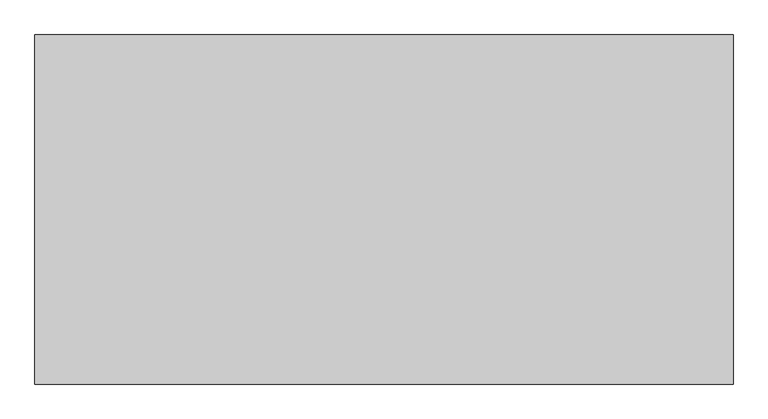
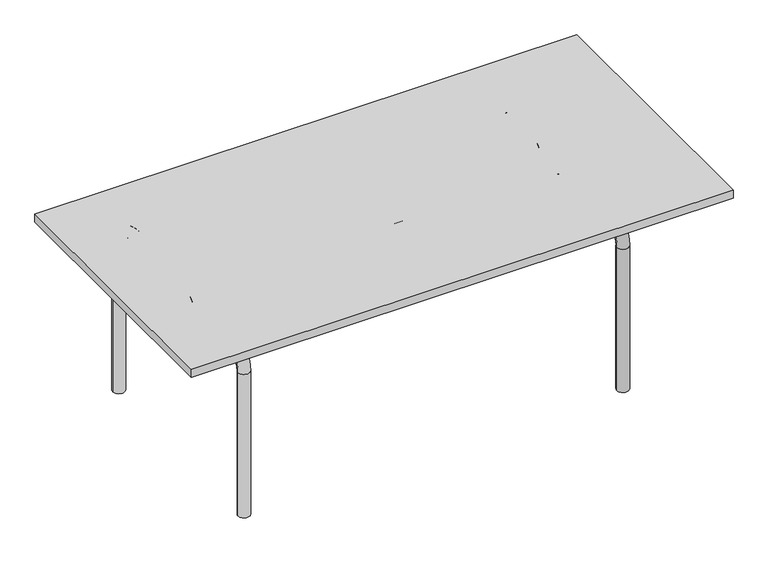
"""IFC4 building model written with IfcOpenShell, lengths in millimetres: furniture geometry, Knoll_Studio_Lovegrove_Table_Desks_Rectangular : Knoll_Studio_Lovegrove_Table_Desks_Rectangular."""

from ifc_helpers import new_model, si_unit, point, frame, origin, place, context, project, spatial, polyline, circle_curve, ellipse_curve, trimmed, outline, extrude, source, transform, mapped, element, save
from ifc_brep_helpers import plane_surface, cylinder_surface, revolved_surface, advanced_brep


def furniture_fff9fc54(model_context):
    return source(origin(), model_context, "Body", "SolidModel", [
        extrude(outline(polyline([(1048.9164642, -500.1260135), (-951.3335358, -500.1260135), (-951.3335358, 500.1260136), (1048.9164642, 500.1260136), (1048.9164642, -500.1260135)])), frame((0.0, 0.0, 685.8), z_axis=(0.0, 0.0, 1.0), x_axis=(1.0, 0.0, 0.0)), (0.0, 0.0, 1.0), 30.48),
        advanced_brep(
        [(0.0, -0.3809992, 663.575012), (0.0, -44.0689992, 663.575012), (597.9159869, -44.0689992, 663.575012), (597.9159869, -0.3809992, 663.575012), (-597.9159869, -0.3809992, 663.575012), (-597.9159869, -44.0689992, 663.575012), (677.6719869, -123.8249992, 663.575012), (721.3599869, -123.8249992, 663.575012), (-721.3599869, -123.8249992, 663.575012), (-677.6719869, -123.8249992, 663.575012), (-721.3599869, -207.6534621, 663.575012), (-677.6719869, -207.6534621, 663.575012), (677.6719869, -207.6534621, 663.575012), (721.3599869, -207.6534621, 663.575012), (-721.3599869, -298.45, 663.575012), (-677.6719869, -298.45, 663.575012), (677.6719869, -298.45, 663.575012), (721.3599869, -298.45, 663.575012), (-677.6719869, -400.05, 561.975012), (-721.3599869, -400.05, 561.975012), (-721.3599869, -400.05, 2.613678), (-677.6719869, -400.05, 2.613678), (677.6719869, -400.05, 561.975012), (721.3599869, -400.05, 561.975012), (677.6719869, -400.05, 2.613678), (721.3599869, -400.05, 2.613678)],
        [
            (0, 1, circle_curve(frame((0.0, -22.2249992, 663.575012), z_axis=(1.0, 0.0, 0.0), x_axis=(0.0, 1.0, 0.0)), 21.844)),
            (1, 2),
            (2, 3, circle_curve(frame((597.9159869, -22.2249992, 663.575012), z_axis=(-1.0, 0.0, 0.0), x_axis=(0.0, 1.0, 0.0)), 21.844)),
            (3, 0),
            (1, 0, circle_curve(frame((0.0, -22.2249992, 663.575012), z_axis=(1.0, 0.0, 0.0), x_axis=(0.0, 1.0, 0.0)), 21.844)),
            (3, 2, circle_curve(frame((597.9159869, -22.2249992, 663.575012), z_axis=(-1.0, 0.0, 0.0), x_axis=(0.0, 1.0, 0.0)), 21.844)),
            (0, 4),
            (4, 5, circle_curve(frame((-597.9159869, -22.2249992, 663.575012), z_axis=(1.0, 0.0, 0.0), x_axis=(0.0, 1.0, 0.0)), 21.844)),
            (5, 1),
            (5, 4, circle_curve(frame((-597.9159869, -22.2249992, 663.575012), z_axis=(1.0, 0.0, 0.0), x_axis=(0.0, 1.0, 0.0)), 21.844)),
            (2, 6, circle_curve(frame((597.9159869, -123.8249992, 663.575012), z_axis=(0.0, 0.0, -1.0), x_axis=(0.0, 1.0, 0.0)), 79.756)),
            (6, 7, circle_curve(frame((699.5159869, -123.8249992, 663.575012), z_axis=(0.0, 1.0, 0.0), x_axis=(1.0, 0.0, 0.0)), 21.844)),
            (7, 3, circle_curve(frame((597.9159869, -123.8249992, 663.575012), z_axis=(0.0, 0.0, 1.0), x_axis=(0.0, 1.0, 0.0)), 123.444)),
            (7, 6, circle_curve(frame((699.5159869, -123.8249992, 663.575012), z_axis=(0.0, 1.0, 0.0), x_axis=(1.0, 0.0, 0.0)), 21.844)),
            (4, 8, circle_curve(frame((-597.9159869, -123.8249992, 663.575012), z_axis=(0.0, 0.0, 1.0), x_axis=(-1.0, 0.0, 0.0)), 123.444)),
            (8, 9, circle_curve(frame((-699.5159869, -123.8249992, 663.575012), z_axis=(0.0, 1.0, 0.0), x_axis=(-1.0, 0.0, 0.0)), 21.844)),
            (9, 5, circle_curve(frame((-597.9159869, -123.8249992, 663.575012), z_axis=(0.0, 0.0, -1.0), x_axis=(-1.0, 0.0, 0.0)), 79.756)),
            (9, 8, circle_curve(frame((-699.5159869, -123.8249992, 663.575012), z_axis=(0.0, 1.0, 0.0), x_axis=(-1.0, 0.0, 0.0)), 21.844)),
            (8, 10),
            (10, 11, circle_curve(frame((-699.5159869, -207.6534621, 663.575012), z_axis=(0.0, 1.0, 0.0), x_axis=(-1.0, 0.0, 0.0)), 21.844)),
            (11, 9),
            (11, 10, circle_curve(frame((-699.5159869, -207.6534621, 663.575012), z_axis=(0.0, 1.0, 0.0), x_axis=(-1.0, 0.0, 0.0)), 21.844)),
            (6, 12),
            (12, 13, circle_curve(frame((699.5159869, -207.6534621, 663.575012), z_axis=(0.0, 1.0, 0.0), x_axis=(1.0, 0.0, 0.0)), 21.844)),
            (13, 7),
            (13, 12, circle_curve(frame((699.5159869, -207.6534621, 663.575012), z_axis=(0.0, 1.0, 0.0), x_axis=(1.0, 0.0, 0.0)), 21.844)),
            (10, 14),
            (14, 15, circle_curve(frame((-699.5159869, -298.45, 663.575012), z_axis=(0.0, 1.0, 0.0), x_axis=(-1.0, 0.0, 0.0)), 21.844)),
            (15, 11),
            (15, 14, circle_curve(frame((-699.5159869, -298.45, 663.575012), z_axis=(0.0, 1.0, 0.0), x_axis=(-1.0, 0.0, 0.0)), 21.844)),
            (12, 16),
            (16, 17, circle_curve(frame((699.5159869, -298.45, 663.575012), z_axis=(0.0, 1.0, 0.0), x_axis=(1.0, 0.0, 0.0)), 21.844)),
            (17, 13),
            (17, 16, circle_curve(frame((699.5159869, -298.45, 663.575012), z_axis=(0.0, 1.0, 0.0), x_axis=(1.0, 0.0, 0.0)), 21.844)),
            (18, 19, circle_curve(frame((-699.5159869, -400.05, 561.975012), z_axis=(0.0, 0.0, -1.0), x_axis=(-1.0, 0.0, 0.0)), 21.844)),
            (19, 20),
            (20, 21, circle_curve(frame((-699.5159869, -400.05, 2.613678), z_axis=(0.0, 0.0, 1.0), x_axis=(-1.0, 0.0, 0.0)), 21.844)),
            (21, 18),
            (19, 18, circle_curve(frame((-699.5159869, -400.05, 561.975012), z_axis=(0.0, 0.0, -1.0), x_axis=(-1.0, 0.0, 0.0)), 21.844)),
            (21, 20, circle_curve(frame((-699.5159869, -400.05, 2.613678), z_axis=(0.0, 0.0, 1.0), x_axis=(-1.0, 0.0, 0.0)), 21.844)),
            (14, 19, circle_curve(frame((-721.3599869, -298.45, 561.975012), z_axis=(1.0, 0.0, 0.0), x_axis=(0.0, -1.0, 0.0)), 101.6)),
            (18, 15, circle_curve(frame((-677.6719869, -298.45, 561.975012), z_axis=(-1.0, 0.0, 0.0), x_axis=(0.0, -1.0, 0.0)), 101.6)),
            (16, 22, circle_curve(frame((677.6719869, -298.45, 561.975012), z_axis=(1.0, 0.0, 0.0), x_axis=(0.0, 0.0, 1.0)), 101.6)),
            (22, 23, circle_curve(frame((699.5159869, -400.05, 561.975012), z_axis=(0.0, 0.0, 1.0), x_axis=(1.0, 0.0, 0.0)), 21.844)),
            (23, 17, circle_curve(frame((721.3599869, -298.45, 561.975012), z_axis=(-1.0, 0.0, 0.0), x_axis=(0.0, 0.0, 1.0)), 101.6)),
            (23, 22, circle_curve(frame((699.5159869, -400.05, 561.975012), z_axis=(0.0, 0.0, 1.0), x_axis=(1.0, 0.0, 0.0)), 21.844)),
            (22, 24),
            (24, 25, circle_curve(frame((699.5159869, -400.05, 2.613678), z_axis=(0.0, 0.0, 1.0), x_axis=(1.0, 0.0, 0.0)), 21.844)),
            (25, 23),
            (25, 24, circle_curve(frame((699.5159869, -400.05, 2.613678), z_axis=(0.0, 0.0, 1.0), x_axis=(1.0, 0.0, 0.0)), 21.844)),
        ],
        [
            cylinder_surface(frame((0.0, -22.2249992, 663.575012), z_axis=(-1.0, 0.0, 0.0), x_axis=(0.0, 1.0, 0.0)), 21.844),
            cylinder_surface(frame((-597.9159869, -22.2249992, 663.575012), z_axis=(-1.0, 0.0, 0.0), x_axis=(0.0, 1.0, 0.0)), 21.844),
            revolved_surface(trimmed(ellipse_curve(frame((597.9159869, -22.2249992, 663.575012), z_axis=(-1.0, 0.0, 0.0), x_axis=(0.0, 1.0, 0.0)), 21.844, 21.844), [point((597.9159869, -44.0689992, 663.575012))], [point((597.9159869, -0.3809992, 663.575012))], True, "CARTESIAN"), (597.9159869, -123.8249992, 663.575012), (0.0, 0.0, -1.0)),
            revolved_surface(trimmed(ellipse_curve(frame((597.9159869, -22.2249992, 663.575012), z_axis=(-1.0, 0.0, 0.0), x_axis=(0.0, 1.0, 0.0)), 21.844, 21.844), [point((597.9159869, -0.3809992, 663.575012))], [point((597.9159869, -44.0689992, 663.575012))], True, "CARTESIAN"), (597.9159869, -123.8249992, 663.575012), (0.0, 0.0, -1.0)),
            revolved_surface(trimmed(ellipse_curve(frame((-699.5159869, -123.8249992, 663.575012), z_axis=(0.0, -1.0, 0.0), x_axis=(-1.0, 0.0, 0.0)), 21.844, 21.844), [point((-677.6719869, -123.8249992, 663.575012))], [point((-721.3599869, -123.8249992, 663.575012))], True, "CARTESIAN"), (-597.9159869, -123.8249992, 663.575012), (0.0, 0.0, -1.0)),
            revolved_surface(trimmed(ellipse_curve(frame((-699.5159869, -123.8249992, 663.575012), z_axis=(0.0, -1.0, 0.0), x_axis=(-1.0, 0.0, 0.0)), 21.844, 21.844), [point((-721.3599869, -123.8249992, 663.575012))], [point((-677.6719869, -123.8249992, 663.575012))], True, "CARTESIAN"), (-597.9159869, -123.8249992, 663.575012), (0.0, 0.0, -1.0)),
            cylinder_surface(frame((-699.5159869, -207.6534621, 663.575012), z_axis=(0.0, -1.0, 0.0), x_axis=(-1.0, 0.0, 0.0)), 21.844),
            cylinder_surface(frame((699.5159869, -123.8249992, 663.575012), z_axis=(0.0, 1.0, 0.0), x_axis=(1.0, 0.0, 0.0)), 21.844),
            cylinder_surface(frame((-699.5159869, -298.45, 663.575012), z_axis=(0.0, -1.0, 0.0), x_axis=(-1.0, 0.0, 0.0)), 21.844),
            cylinder_surface(frame((699.5159869, -207.6534621, 663.575012), z_axis=(0.0, 1.0, 0.0), x_axis=(1.0, 0.0, 0.0)), 21.844),
            cylinder_surface(frame((-699.5159869, -400.05, 1e-07), z_axis=(0.0, 0.0, -1.0), x_axis=(-1.0, 0.0, 0.0)), 21.844),
            revolved_surface(trimmed(ellipse_curve(frame((-699.5159869, -400.05, 561.975012), z_axis=(0.0, 0.0, -1.0), x_axis=(-1.0, 0.0, 0.0)), 21.844, 21.844), [point((-677.6719869, -400.05, 561.975012))], [point((-721.3599869, -400.05, 561.975012))], True, "CARTESIAN"), (-699.5159869, -298.45, 561.975012), (-1.0, 0.0, 0.0)),
            revolved_surface(trimmed(ellipse_curve(frame((-699.5159869, -400.05, 561.975012), z_axis=(0.0, 0.0, -1.0), x_axis=(-1.0, 0.0, 0.0)), 21.844, 21.844), [point((-721.3599869, -400.05, 561.975012))], [point((-677.6719869, -400.05, 561.975012))], True, "CARTESIAN"), (-699.5159869, -298.45, 561.975012), (-1.0, 0.0, 0.0)),
            revolved_surface(trimmed(ellipse_curve(frame((699.5159869, -298.45, 663.575012), z_axis=(0.0, 1.0, 0.0), x_axis=(1.0, 0.0, 0.0)), 21.844, 21.844), [point((677.6719869, -298.45, 663.575012))], [point((721.3599869, -298.45, 663.575012))], True, "CARTESIAN"), (699.5159869, -298.45, 561.975012), (1.0, 0.0, 0.0)),
            revolved_surface(trimmed(ellipse_curve(frame((699.5159869, -298.45, 663.575012), z_axis=(0.0, 1.0, 0.0), x_axis=(1.0, 0.0, 0.0)), 21.844, 21.844), [point((721.3599869, -298.45, 663.575012))], [point((677.6719869, -298.45, 663.575012))], True, "CARTESIAN"), (699.5159869, -298.45, 561.975012), (1.0, 0.0, 0.0)),
            cylinder_surface(frame((699.5159869, -400.05, 561.975012), z_axis=(0.0, 0.0, 1.0), x_axis=(1.0, 0.0, 0.0)), 21.844),
            plane_surface(frame((768.710779, -274.665633, 2.613678), z_axis=(0.0, 0.0, -1.0), x_axis=(-1.0, 0.0, 0.0))),
        ],
        [
            (0, [[1, 2, 3, 4]]),
            (0, [[-2, 5, -4, 6]]),
            (1, [[-1, 7, 8, 9]]),
            (1, [[-5, -9, 10, -7]]),
            (2, [[-3, 11, 12, 13]]),
            (3, [[-6, -13, 14, -11]]),
            (4, [[-8, 15, 16, 17]]),
            (5, [[-10, -17, 18, -15]]),
            (6, [[-16, 19, 20, 21]]),
            (6, [[-18, -21, 22, -19]]),
            (7, [[-12, 23, 24, 25]]),
            (7, [[-14, -25, 26, -23]]),
            (8, [[-20, 27, 28, 29]]),
            (8, [[-22, -29, 30, -27]]),
            (9, [[-24, 31, 32, 33]]),
            (9, [[-26, -33, 34, -31]]),
            (10, [[35, 36, 37, 38]]),
            (10, [[39, -38, 40, -36]]),
            (11, [[-28, 41, -35, 42]]),
            (12, [[-30, -42, -39, -41]]),
            (13, [[-32, 43, 44, 45]]),
            (14, [[-34, -45, 46, -43]]),
            (15, [[-44, 47, 48, 49]]),
            (15, [[-46, -49, 50, -47]]),
            (16, [[-37, -40]]),
            (16, [[-48, -50]]),
        ],
    ),
        advanced_brep(
        [(0.0, 44.0689992, 663.575012), (0.0, 0.3809992, 663.575012), (597.9159869, 0.3809992, 663.575012), (597.9159869, 44.0689992, 663.575012), (-597.9159869, 44.0689992, 663.575012), (-597.9159869, 0.3809992, 663.575012), (721.3599869, 123.8249992, 663.575012), (677.6719869, 123.8249992, 663.575012), (-677.6719869, 123.8249992, 663.575012), (-721.3599869, 123.8249992, 663.575012), (-677.6719869, 207.6534621, 663.575012), (-721.3599869, 207.6534621, 663.575012), (721.3599869, 207.6534621, 663.575012), (677.6719869, 207.6534621, 663.575012), (-677.6719869, 298.45, 663.575012), (-721.3599869, 298.45, 663.575012), (721.3599869, 298.45, 663.575012), (677.6719869, 298.45, 663.575012), (-721.3599869, 400.05, 561.975012), (-677.6719869, 400.05, 561.975012), (-677.6719869, 400.05, 2.613678), (-721.3599869, 400.05, 2.613678), (721.3599869, 400.05, 561.975012), (677.6719869, 400.05, 561.975012), (721.3599869, 400.05, 2.613678), (677.6719869, 400.05, 2.613678)],
        [
            (0, 1, circle_curve(frame((0.0, 22.2249992, 663.575012), z_axis=(1.0, 0.0, 0.0), x_axis=(0.0, -1.0, 0.0)), 21.844)),
            (1, 2),
            (2, 3, circle_curve(frame((597.9159869, 22.2249992, 663.575012), z_axis=(-1.0, 0.0, 0.0), x_axis=(0.0, -1.0, 0.0)), 21.844)),
            (3, 0),
            (1, 0, circle_curve(frame((0.0, 22.2249992, 663.575012), z_axis=(1.0, 0.0, 0.0), x_axis=(0.0, -1.0, 0.0)), 21.844)),
            (3, 2, circle_curve(frame((597.9159869, 22.2249992, 663.575012), z_axis=(-1.0, 0.0, 0.0), x_axis=(0.0, -1.0, 0.0)), 21.844)),
            (0, 4),
            (4, 5, circle_curve(frame((-597.9159869, 22.2249992, 663.575012), z_axis=(1.0, 0.0, 0.0), x_axis=(0.0, -1.0, 0.0)), 21.844)),
            (5, 1),
            (5, 4, circle_curve(frame((-597.9159869, 22.2249992, 663.575012), z_axis=(1.0, 0.0, 0.0), x_axis=(0.0, -1.0, 0.0)), 21.844)),
            (2, 6, circle_curve(frame((597.9159869, 123.8249992, 663.575012), z_axis=(0.0, 0.0, 1.0), x_axis=(0.0, -1.0, 0.0)), 123.444)),
            (6, 7, circle_curve(frame((699.5159869, 123.8249992, 663.575012), z_axis=(0.0, -1.0, 0.0), x_axis=(1.0, 0.0, 0.0)), 21.844)),
            (7, 3, circle_curve(frame((597.9159869, 123.8249992, 663.575012), z_axis=(0.0, 0.0, -1.0), x_axis=(0.0, -1.0, 0.0)), 79.756)),
            (7, 6, circle_curve(frame((699.5159869, 123.8249992, 663.575012), z_axis=(0.0, -1.0, 0.0), x_axis=(1.0, 0.0, 0.0)), 21.844)),
            (4, 8, circle_curve(frame((-597.9159869, 123.8249992, 663.575012), z_axis=(0.0, 0.0, -1.0), x_axis=(-1.0, 0.0, 0.0)), 79.756)),
            (8, 9, circle_curve(frame((-699.5159869, 123.8249992, 663.575012), z_axis=(0.0, -1.0, 0.0), x_axis=(-1.0, 0.0, 0.0)), 21.844)),
            (9, 5, circle_curve(frame((-597.9159869, 123.8249992, 663.575012), z_axis=(0.0, 0.0, 1.0), x_axis=(-1.0, 0.0, 0.0)), 123.444)),
            (9, 8, circle_curve(frame((-699.5159869, 123.8249992, 663.575012), z_axis=(0.0, -1.0, 0.0), x_axis=(-1.0, 0.0, 0.0)), 21.844)),
            (8, 10),
            (10, 11, circle_curve(frame((-699.5159869, 207.6534621, 663.575012), z_axis=(0.0, -1.0, 0.0), x_axis=(-1.0, 0.0, 0.0)), 21.844)),
            (11, 9),
            (11, 10, circle_curve(frame((-699.5159869, 207.6534621, 663.575012), z_axis=(0.0, -1.0, 0.0), x_axis=(-1.0, 0.0, 0.0)), 21.844)),
            (6, 12),
            (12, 13, circle_curve(frame((699.5159869, 207.6534621, 663.575012), z_axis=(0.0, -1.0, 0.0), x_axis=(1.0, 0.0, 0.0)), 21.844)),
            (13, 7),
            (13, 12, circle_curve(frame((699.5159869, 207.6534621, 663.575012), z_axis=(0.0, -1.0, 0.0), x_axis=(1.0, 0.0, 0.0)), 21.844)),
            (10, 14),
            (14, 15, circle_curve(frame((-699.5159869, 298.45, 663.575012), z_axis=(0.0, -1.0, 0.0), x_axis=(-1.0, 0.0, 0.0)), 21.844)),
            (15, 11),
            (15, 14, circle_curve(frame((-699.5159869, 298.45, 663.575012), z_axis=(0.0, -1.0, 0.0), x_axis=(-1.0, 0.0, 0.0)), 21.844)),
            (12, 16),
            (16, 17, circle_curve(frame((699.5159869, 298.45, 663.575012), z_axis=(0.0, -1.0, 0.0), x_axis=(1.0, 0.0, 0.0)), 21.844)),
            (17, 13),
            (17, 16, circle_curve(frame((699.5159869, 298.45, 663.575012), z_axis=(0.0, -1.0, 0.0), x_axis=(1.0, 0.0, 0.0)), 21.844)),
            (18, 19, circle_curve(frame((-699.5159869, 400.05, 561.975012), z_axis=(0.0, 0.0, -1.0), x_axis=(-1.0, 0.0, 0.0)), 21.844)),
            (19, 20),
            (20, 21, circle_curve(frame((-699.5159869, 400.05, 2.613678), z_axis=(0.0, 0.0, 1.0), x_axis=(-1.0, 0.0, 0.0)), 21.844)),
            (21, 18),
            (19, 18, circle_curve(frame((-699.5159869, 400.05, 561.975012), z_axis=(0.0, 0.0, -1.0), x_axis=(-1.0, 0.0, 0.0)), 21.844)),
            (21, 20, circle_curve(frame((-699.5159869, 400.05, 2.613678), z_axis=(0.0, 0.0, 1.0), x_axis=(-1.0, 0.0, 0.0)), 21.844)),
            (14, 19, circle_curve(frame((-677.6719869, 298.45, 561.975012), z_axis=(-1.0, 0.0, 0.0), x_axis=(0.0, 1.0, 0.0)), 101.6)),
            (18, 15, circle_curve(frame((-721.3599869, 298.45, 561.975012), z_axis=(1.0, 0.0, 0.0), x_axis=(0.0, 1.0, 0.0)), 101.6)),
            (16, 22, circle_curve(frame((721.3599869, 298.45, 561.975012), z_axis=(-1.0, 0.0, 0.0), x_axis=(0.0, 0.0, 1.0)), 101.6)),
            (22, 23, circle_curve(frame((699.5159869, 400.05, 561.975012), z_axis=(0.0, 0.0, 1.0), x_axis=(1.0, 0.0, 0.0)), 21.844)),
            (23, 17, circle_curve(frame((677.6719869, 298.45, 561.975012), z_axis=(1.0, 0.0, 0.0), x_axis=(0.0, 0.0, 1.0)), 101.6)),
            (23, 22, circle_curve(frame((699.5159869, 400.05, 561.975012), z_axis=(0.0, 0.0, 1.0), x_axis=(1.0, 0.0, 0.0)), 21.844)),
            (22, 24),
            (24, 25, circle_curve(frame((699.5159869, 400.05, 2.613678), z_axis=(0.0, 0.0, 1.0), x_axis=(1.0, 0.0, 0.0)), 21.844)),
            (25, 23),
            (25, 24, circle_curve(frame((699.5159869, 400.05, 2.613678), z_axis=(0.0, 0.0, 1.0), x_axis=(1.0, 0.0, 0.0)), 21.844)),
        ],
        [
            cylinder_surface(frame((0.0, 22.2249992, 663.575012), z_axis=(-1.0, 0.0, 0.0), x_axis=(0.0, -1.0, 0.0)), 21.844),
            cylinder_surface(frame((-597.9159869, 22.2249992, 663.575012), z_axis=(-1.0, 0.0, 0.0), x_axis=(0.0, -1.0, 0.0)), 21.844),
            revolved_surface(trimmed(ellipse_curve(frame((597.9159869, 22.2249992, 663.575012), z_axis=(-1.0, 0.0, 0.0), x_axis=(0.0, -1.0, 0.0)), 21.844, 21.844), [point((597.9159869, 0.3809992, 663.575012))], [point((597.9159869, 44.0689992, 663.575012))], True, "CARTESIAN"), (597.9159869, 123.8249992, 663.575012), (0.0, 0.0, 1.0)),
            revolved_surface(trimmed(ellipse_curve(frame((597.9159869, 22.2249992, 663.575012), z_axis=(-1.0, 0.0, 0.0), x_axis=(0.0, -1.0, 0.0)), 21.844, 21.844), [point((597.9159869, 44.0689992, 663.575012))], [point((597.9159869, 0.3809992, 663.575012))], True, "CARTESIAN"), (597.9159869, 123.8249992, 663.575012), (0.0, 0.0, 1.0)),
            revolved_surface(trimmed(ellipse_curve(frame((-699.5159869, 123.8249992, 663.575012), z_axis=(0.0, 1.0, 0.0), x_axis=(-1.0, 0.0, 0.0)), 21.844, 21.844), [point((-721.3599869, 123.8249992, 663.575012))], [point((-677.6719869, 123.8249992, 663.575012))], True, "CARTESIAN"), (-597.9159869, 123.8249992, 663.575012), (0.0, 0.0, 1.0)),
            revolved_surface(trimmed(ellipse_curve(frame((-699.5159869, 123.8249992, 663.575012), z_axis=(0.0, 1.0, 0.0), x_axis=(-1.0, 0.0, 0.0)), 21.844, 21.844), [point((-677.6719869, 123.8249992, 663.575012))], [point((-721.3599869, 123.8249992, 663.575012))], True, "CARTESIAN"), (-597.9159869, 123.8249992, 663.575012), (0.0, 0.0, 1.0)),
            cylinder_surface(frame((-699.5159869, 207.6534621, 663.575012), z_axis=(0.0, 1.0, 0.0), x_axis=(-1.0, 0.0, 0.0)), 21.844),
            cylinder_surface(frame((699.5159869, 123.8249992, 663.575012), z_axis=(0.0, -1.0, 0.0), x_axis=(1.0, 0.0, 0.0)), 21.844),
            cylinder_surface(frame((-699.5159869, 298.45, 663.575012), z_axis=(0.0, 1.0, 0.0), x_axis=(-1.0, 0.0, 0.0)), 21.844),
            cylinder_surface(frame((699.5159869, 207.6534621, 663.575012), z_axis=(0.0, -1.0, 0.0), x_axis=(1.0, 0.0, 0.0)), 21.844),
            cylinder_surface(frame((-699.5159869, 400.05, 1e-07), z_axis=(0.0, 0.0, -1.0), x_axis=(-1.0, 0.0, 0.0)), 21.844),
            revolved_surface(trimmed(ellipse_curve(frame((-699.5159869, 400.05, 561.975012), z_axis=(0.0, 0.0, -1.0), x_axis=(-1.0, 0.0, 0.0)), 21.844, 21.844), [point((-721.3599869, 400.05, 561.975012))], [point((-677.6719869, 400.05, 561.975012))], True, "CARTESIAN"), (-699.5159869, 298.45, 561.975012), (1.0, 0.0, 0.0)),
            revolved_surface(trimmed(ellipse_curve(frame((-699.5159869, 400.05, 561.975012), z_axis=(0.0, 0.0, -1.0), x_axis=(-1.0, 0.0, 0.0)), 21.844, 21.844), [point((-677.6719869, 400.05, 561.975012))], [point((-721.3599869, 400.05, 561.975012))], True, "CARTESIAN"), (-699.5159869, 298.45, 561.975012), (1.0, 0.0, 0.0)),
            revolved_surface(trimmed(ellipse_curve(frame((699.5159869, 298.45, 663.575012), z_axis=(0.0, -1.0, 0.0), x_axis=(1.0, 0.0, 0.0)), 21.844, 21.844), [point((721.3599869, 298.45, 663.575012))], [point((677.6719869, 298.45, 663.575012))], True, "CARTESIAN"), (699.5159869, 298.45, 561.975012), (-1.0, 0.0, 0.0)),
            revolved_surface(trimmed(ellipse_curve(frame((699.5159869, 298.45, 663.575012), z_axis=(0.0, -1.0, 0.0), x_axis=(1.0, 0.0, 0.0)), 21.844, 21.844), [point((677.6719869, 298.45, 663.575012))], [point((721.3599869, 298.45, 663.575012))], True, "CARTESIAN"), (699.5159869, 298.45, 561.975012), (-1.0, 0.0, 0.0)),
            cylinder_surface(frame((699.5159869, 400.05, 561.975012), z_axis=(0.0, 0.0, 1.0), x_axis=(1.0, 0.0, 0.0)), 21.844),
            plane_surface(frame((792.6368888, 498.8564787, 2.613678), z_axis=(0.0, 0.0, -1.0), x_axis=(-1.0, 0.0, 0.0))),
        ],
        [
            (0, [[1, 2, 3, 4]]),
            (0, [[-2, 5, -4, 6]]),
            (1, [[-1, 7, 8, 9]]),
            (1, [[-5, -9, 10, -7]]),
            (2, [[-3, 11, 12, 13]]),
            (3, [[-6, -13, 14, -11]]),
            (4, [[-8, 15, 16, 17]]),
            (5, [[-10, -17, 18, -15]]),
            (6, [[-16, 19, 20, 21]]),
            (6, [[-18, -21, 22, -19]]),
            (7, [[-12, 23, 24, 25]]),
            (7, [[-14, -25, 26, -23]]),
            (8, [[-20, 27, 28, 29]]),
            (8, [[-22, -29, 30, -27]]),
            (9, [[-24, 31, 32, 33]]),
            (9, [[-26, -33, 34, -31]]),
            (10, [[35, 36, 37, 38]]),
            (10, [[39, -38, 40, -36]]),
            (11, [[-28, 41, -35, 42]]),
            (12, [[-30, -42, -39, -41]]),
            (13, [[-32, 43, 44, 45]]),
            (14, [[-34, -45, 46, -43]]),
            (15, [[-44, 47, 48, 49]]),
            (15, [[-46, -49, 50, -47]]),
            (16, [[-37, -40]]),
            (16, [[-48, -50]]),
        ],
    ),
    ])


if __name__ == "__main__":
    model = new_model("IFC4")
    model_context = context("Model", 3, world=origin())
    ifc_project = project(units=[si_unit("LENGTHUNIT", "METRE", prefix="MILLI")], contexts=[model_context])
    site = spatial("IfcSite", under=ifc_project)
    building = spatial("IfcBuilding", under=site)
    placement = place(None, origin())
    furniture_shape = furniture_fff9fc54(model_context)
    element("IfcFurniture", 1, ObjectType="Knoll_Studio_Lovegrove_Table_Desks_Rectangular : Knoll_Studio_Lovegrove_Table_Desks_Rectangular", at=placement, inside=building, context=model_context, shape_type="MappedRepresentation", body=[
        mapped(furniture_shape, transform((0.0, 0.0, 0.0), x_axis=(1.0, 0.0, 0.0), y_axis=(0.0, 1.0, 0.0), z_axis=(0.0, 0.0, 1.0))),
    ])
    save(model, "model.ifc")
